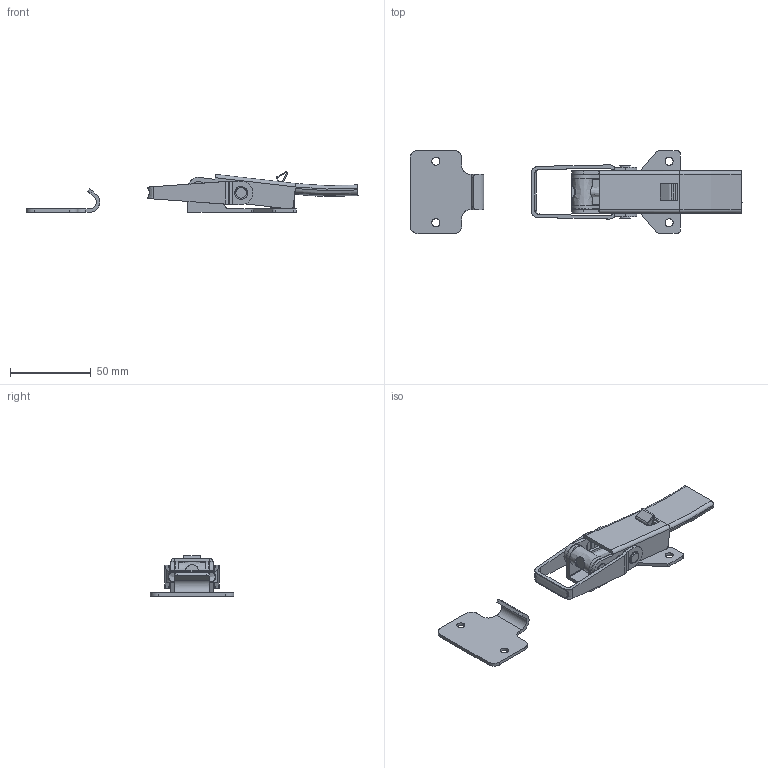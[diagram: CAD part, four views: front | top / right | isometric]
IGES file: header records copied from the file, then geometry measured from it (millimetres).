
Global section: file name: DR_C-M73-B; native system: Autodesk Inventor 2015; preprocessor: unknown; author: Administrator; date: 20180301.162540; units: millimetre
Bounding box: 205.08 x 51.5 x 25 mm (x, y, z)
Volume: 27582.8 mm3; surface area: 28758.7 mm2
Topology: 5 solids, 5 shells, 229 faces, 618 edges, 407 vertices
Faces by surface type: bspline 229
